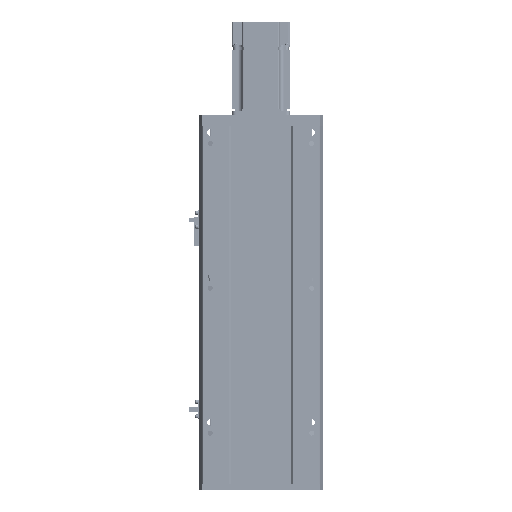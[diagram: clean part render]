
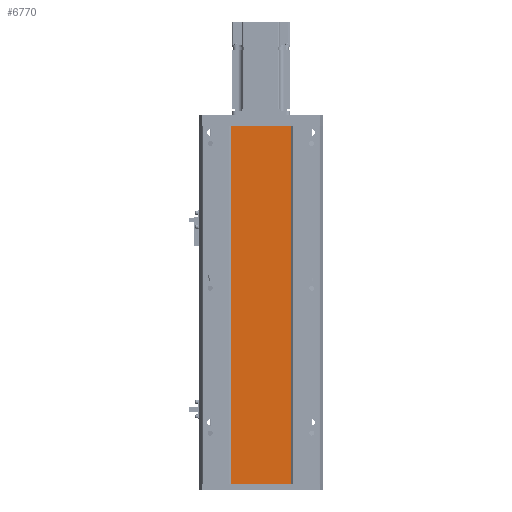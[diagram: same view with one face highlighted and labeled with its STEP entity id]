
A CAD part, front view. The second image highlights one B-rep face of the part: STEP entity #6770.
In plain terms, the highlighted planar face has unit normal (0, -1, 0).
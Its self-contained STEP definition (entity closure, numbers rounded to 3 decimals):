
#2466 = VERTEX_POINT ( 'NONE', #22463 ) ;
#5129 = VERTEX_POINT ( 'NONE', #98491 ) ;
#5817 = VERTEX_POINT ( 'NONE', #11213 ) ;
#6476 = CARTESIAN_POINT ( 'NONE',  ( -42., 0., -495. ) ) ;
#6770 = ADVANCED_FACE ( 'NONE', ( #90915 ), #76146, .T. ) ;
#8478 = EDGE_CURVE ( 'NONE', #5129, #2466, #50950, .T. ) ;
#11213 = CARTESIAN_POINT ( 'NONE',  ( -42., 0., 0. ) ) ;
#16327 = CARTESIAN_POINT ( 'NONE',  ( 42., 0., -495. ) ) ;
#18729 = CARTESIAN_POINT ( 'NONE',  ( -42., 0., 0. ) ) ;
#22463 = CARTESIAN_POINT ( 'NONE',  ( 42., 0., -495. ) ) ;
#28015 = VECTOR ( 'NONE', #37056, 1000. ) ;
#29823 = CARTESIAN_POINT ( 'NONE',  ( -42., 0., -495. ) ) ;
#33675 = CARTESIAN_POINT ( 'NONE',  ( -42., 0., -495. ) ) ;
#34643 = LINE ( 'NONE', #18729, #70935 ) ;
#35613 = ORIENTED_EDGE ( 'NONE', *, *, #89471, .F. ) ;
#37056 = DIRECTION ( 'NONE',  ( 1., 0., 0. ) ) ;
#37608 = DIRECTION ( 'NONE',  ( 0., 0., -1. ) ) ;
#37967 = ORIENTED_EDGE ( 'NONE', *, *, #8478, .T. ) ;
#45846 = EDGE_CURVE ( 'NONE', #2466, #92680, #75299, .T. ) ;
#50629 = ORIENTED_EDGE ( 'NONE', *, *, #77279, .F. ) ;
#50950 = LINE ( 'NONE', #6476, #28015 ) ;
#54708 = VECTOR ( 'NONE', #85744, 1000. ) ;
#68130 = CARTESIAN_POINT ( 'NONE',  ( 42., 0., 0. ) ) ;
#70935 = VECTOR ( 'NONE', #88185, 1000. ) ;
#75299 = LINE ( 'NONE', #16327, #54708 ) ;
#76146 = PLANE ( 'NONE',  #92425 ) ;
#77279 = EDGE_CURVE ( 'NONE', #5817, #92680, #34643, .T. ) ;
#77573 = EDGE_LOOP ( 'NONE', ( #50629, #35613, #37967, #99737 ) ) ;
#79510 = VECTOR ( 'NONE', #95527, 1000. ) ;
#83830 = DIRECTION ( 'NONE',  ( 0., -1., 0. ) ) ;
#85744 = DIRECTION ( 'NONE',  ( 0., 0., 1. ) ) ;
#88185 = DIRECTION ( 'NONE',  ( 1., 0., 0. ) ) ;
#89471 = EDGE_CURVE ( 'NONE', #5129, #5817, #100020, .T. ) ;
#90915 = FACE_OUTER_BOUND ( 'NONE', #77573, .T. ) ;
#92425 = AXIS2_PLACEMENT_3D ( 'NONE', #29823, #83830, #37608 ) ;
#92680 = VERTEX_POINT ( 'NONE', #68130 ) ;
#95527 = DIRECTION ( 'NONE',  ( 0., 0., 1. ) ) ;
#98491 = CARTESIAN_POINT ( 'NONE',  ( -42., 0., -495. ) ) ;
#99737 = ORIENTED_EDGE ( 'NONE', *, *, #45846, .T. ) ;
#100020 = LINE ( 'NONE', #33675, #79510 ) ;
